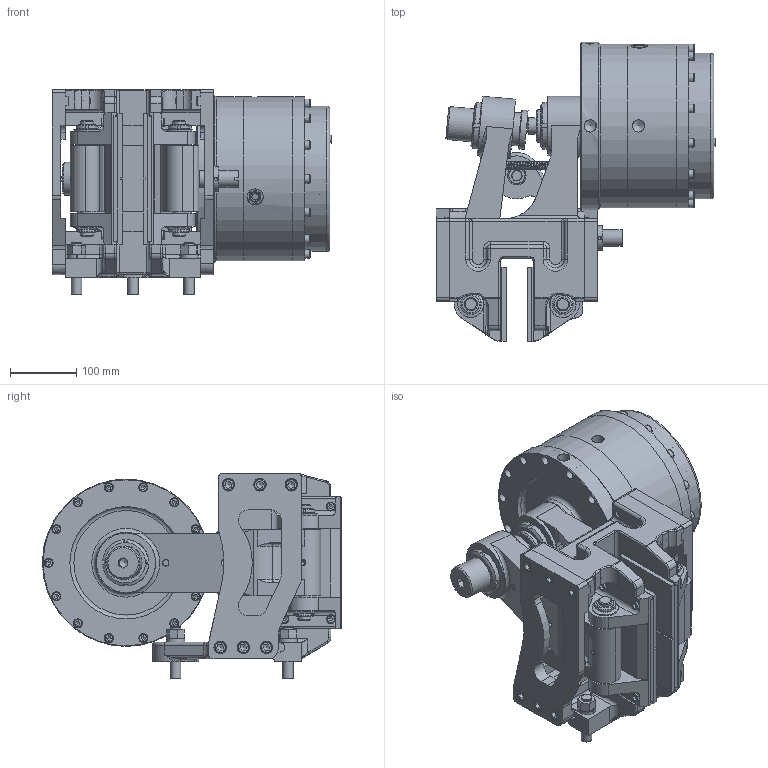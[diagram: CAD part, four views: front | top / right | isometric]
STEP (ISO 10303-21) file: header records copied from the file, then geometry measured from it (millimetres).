
FILE_DESCRIPTION(/* description */ ('','CAx-IF Rec.Pracs.---Representation and Presentation of Product Manufacturing Information (PMI)---4.0---2014-10-13'),/* implementation_level */ '2;1');
FILE_NAME(/* name */ 'X:\INVENTOR\DISEGNI\19_Pinze\STEP x Sito\PNEUM-NEGATIVE-PR\19_76_066_05 PPT-N066_30_PR.stp',/* time_stamp */ '2018-10-25T16:37:29+02:00',/* author */ ('stefano'),/* organization */ (''),/* preprocessor_version */ 'ST-DEVELOPER v17',/* originating_system */ 'Autodesk Inventor 2018',/* authorisation */ '');
FILE_SCHEMA (('AP242_MANAGED_MODEL_BASED_3D_ENGINEERING_MIM_LF { 1 0 10303 442 1 1 4 }'));
Products named in the file (1): 19_76_066_05 PPT-N066_30_PR_Substitute_1
Bounding box: 423.1 x 452.5 x 310 mm (x, y, z)
Volume: 12342744.8 mm3; surface area: 1588364 mm2
Topology: 1 solids, 1 shells, 2166 faces, 5978 edges, 3953 vertices
Faces by surface type: plane 1079, cylinder 607, cone 214, torus 214, bspline 32, sphere 20
Full cylindrical faces by diameter (mm): 1.8 x2, 3 x1, 4.917 x6, 5 x4, 5.188 x1, 5.25 x4, 6.3 x6, 6.647 x1, 6.917 x1, 7.4 x1, 7.5 x2, 8 x8, 8.25 x1, 8.376 x1, 8.5 x8, 8.917 x2, 9 x1, 9.188 x1, 10 x6, 10.106 x12, 10.5 x5, 10.647 x2, 11.445 x2, 12 x14, 12.5 x13, 13 x36, 13.157 x2, 13.5 x22, 14 x1, 15 x2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
Entity records: 81736 total; most frequent: CARTESIAN_POINT 24417, DIRECTION 11786, ORIENTED_EDGE 11764, EDGE_CURVE 5882, AXIS2_PLACEMENT_3D 4569, VERTEX_POINT 3953, LINE 2648, VECTOR 2648
